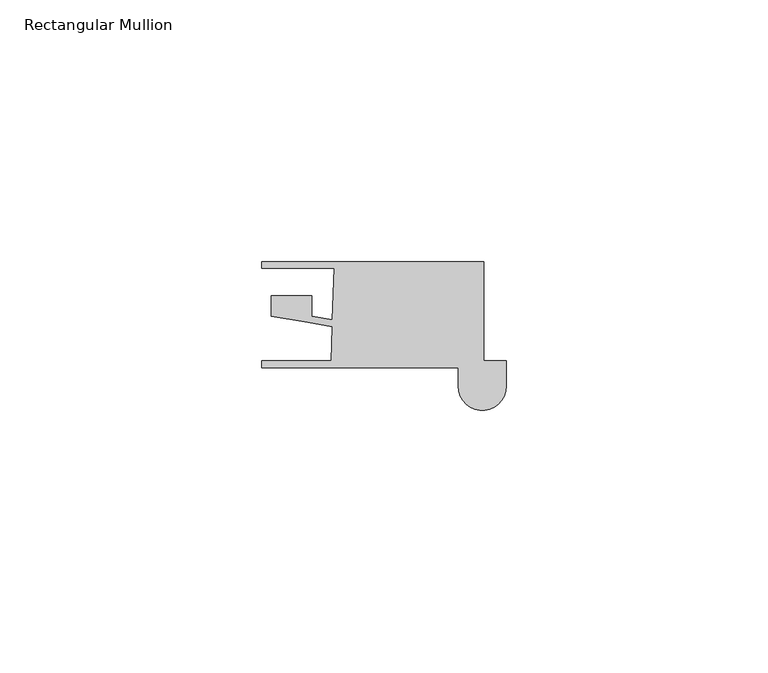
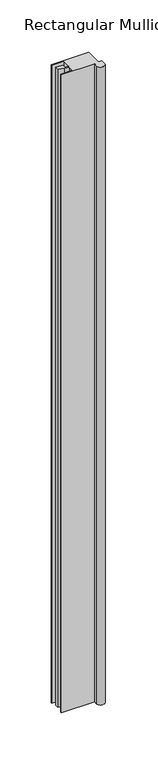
"""IFC4 building model written with IfcOpenShell, lengths in millimetres: member geometry, Rectangular Mullion : QuickPanel-Absolute_Multi-Angle-Outside-Corner-Trim-Right."""

from ifc_helpers import new_model, si_unit, point, frame, frame_2d, origin, place, context, project, spatial, polyline, circle_curve, trimmed, segment, composite_curve, outline, extrude, source, transform, mapped, element, save


def rectangular_mullion_0f93f0b6(model_context):
    return source(origin(), model_context, "Body", "SweptSolid", [
        extrude(outline(composite_curve([segment(polyline([(-46.7093657, -8.095605), (-46.7093657, -6.6935423), (-33.468453, -6.6935423), (-33.2416678, -0.1992641), (-38.4919487, 0.7008023), (-44.9272813, 1.8040245), (-44.9272813, 5.6493034), (-37.1825082, 5.6493034), (-37.1825082, 1.7648465), (-33.1969393, 1.0815922), (-32.8530122, 10.9303752), (-46.7093657, 10.9303752), (-46.7093657, 12.1803727), (-4.2600515, 12.1803727), (-4.2600515, -6.6995181), (0.0, -6.6995181), (0.0, -11.6334034)]), True, "CONTINUOUS"), segment(trimmed(circle_curve(frame_2d((-4.572, -11.6334034)), 4.572), [point((0.0, -11.6334034))], [point((-9.144, -11.6334034))], False, "CARTESIAN"), True, "CONTINUOUS"), segment(polyline([(-9.144, -11.6334034), (-9.144, -8.095605), (-46.7093657, -8.095605)]), True, "CONTINUOUS")], self_intersect=False)), frame((0.0, 0.0, -763.2962426), z_axis=(0.0, 0.0, 1.0), x_axis=(1.0, 0.0, 0.0)), (0.0, 0.0, 1.0), 763.2962426),
    ])


if __name__ == "__main__":
    model = new_model("IFC4")
    model_context = context("Model", 3, world=origin())
    ifc_project = project(units=[si_unit("LENGTHUNIT", "METRE", prefix="MILLI")], contexts=[model_context])
    site = spatial("IfcSite", under=ifc_project)
    building = spatial("IfcBuilding", under=site)
    placement = place(None, origin())
    rectangular_mullion_shape = rectangular_mullion_0f93f0b6(model_context)
    element("IfcMember", 1, ObjectType="Rectangular Mullion : QuickPanel-Absolute_Multi-Angle-Outside-Corner-Trim-Right", at=placement, inside=building, context=model_context, shape_type="MappedRepresentation", body=[
        mapped(rectangular_mullion_shape, transform((0.0, 0.0, 0.0), x_axis=(1.0, 0.0, 0.0), y_axis=(0.0, 1.0, 0.0), z_axis=(0.0, 0.0, 1.0))),
    ])
    save(model, "model.ifc")
